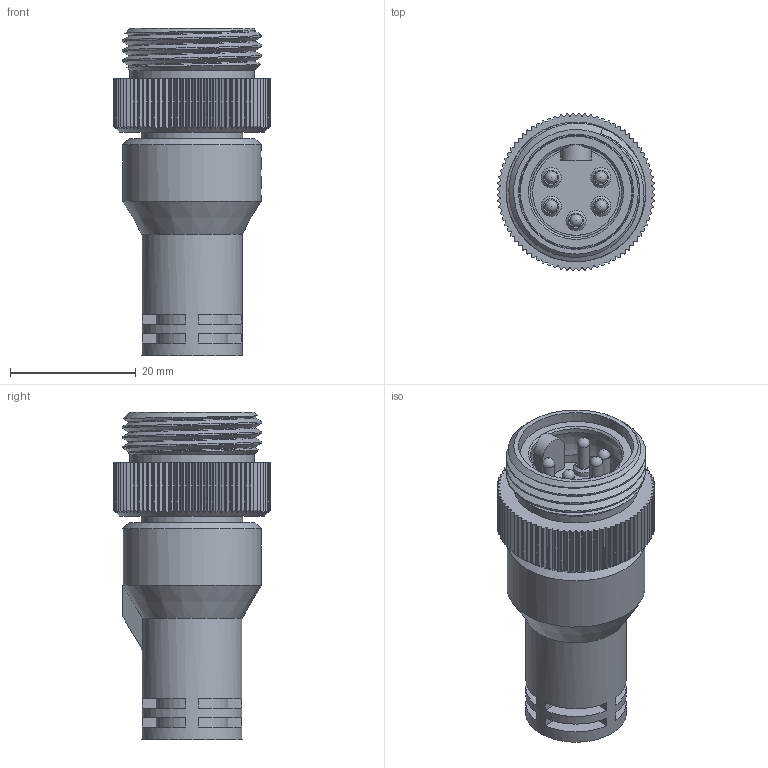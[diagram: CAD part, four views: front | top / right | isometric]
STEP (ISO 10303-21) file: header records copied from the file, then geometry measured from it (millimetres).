
FILE_DESCRIPTION (( 'STEP AP203' ), '1' );
FILE_NAME ('CM03A-ER5P(R1).STEP', '2022-04-07T08:11:48', ( '' ), ( '' ), 'SwSTEP 2.0', 'SolidWorks 2018', '' );
FILE_SCHEMA (( 'CONFIG_CONTROL_DESIGN' ));
Length unit declared in the file: millimetre
Products named in the file (1): CM03A-ER5P(R1)
Bounding box: 24.98 x 24.98 x 52 mm (x, y, z)
Volume: 14442.5 mm3; surface area: 6613.3 mm2
Topology: 1 solids, 1 shells, 591 faces, 1706 edges, 1136 vertices
Faces by surface type: cylinder 353, plane 212, cone 13, bspline 6, sphere 5, torus 2
Full cylindrical faces by diameter (mm): 2.01 x5, 3.2 x5, 16 x1, 16.2 x1, 17.7 x2, 18.3 x1, 19.8 x1, 22 x1
Entity records: 21266 total; most frequent: CARTESIAN_POINT 6398, ORIENTED_EDGE 3276, DIRECTION 2867, EDGE_CURVE 1638, VERTEX_POINT 1107, AXIS2_PLACEMENT_3D 1073, VECTOR 721, LINE 721
